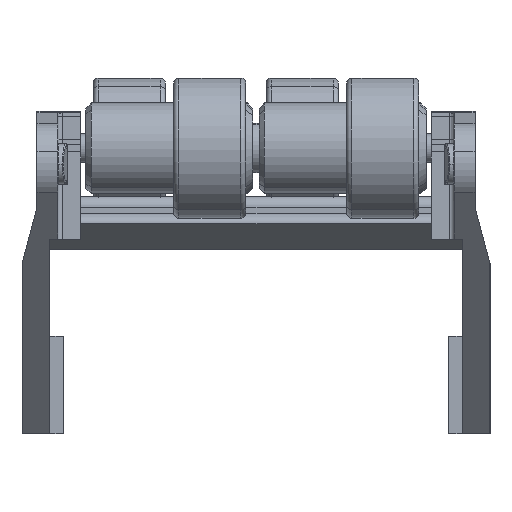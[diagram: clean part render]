
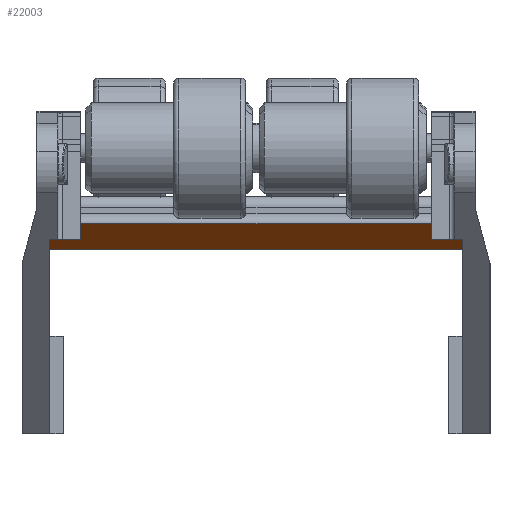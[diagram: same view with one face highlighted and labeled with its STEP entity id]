
A CAD part, left-side view. The second image highlights one B-rep face of the part: STEP entity #22003.
In plain terms, the highlighted planar face has unit normal (-0.643, 0, -0.766).
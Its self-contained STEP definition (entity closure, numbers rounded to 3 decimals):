
#12373=EDGE_CURVE('',#34947,#34948,#34949,.T.);
#15837=EDGE_CURVE('',#40850,#34947,#40851,.T.);
#17025=EDGE_CURVE('',#42713,#40850,#42714,.T.);
#20429=EDGE_CURVE('',#47729,#34948,#47730,.T.);
#22003=ADVANCED_FACE('',(#49870),#49871,.F.);
#24055=EDGE_CURVE('',#52585,#47729,#52586,.T.);
#29309=EDGE_CURVE('',#57968,#52585,#59065,.T.);
#31755=EDGE_CURVE('',#43181,#42713,#61981,.T.);
#33329=EDGE_CURVE('',#43181,#57968,#63801,.T.);
#34947=VERTEX_POINT('',#66082);
#34948=VERTEX_POINT('',#66083);
#34949=LINE('',#66084,#66085);
#40850=VERTEX_POINT('',#74681);
#40851=LINE('',#74682,#74683);
#42713=VERTEX_POINT('',#77547);
#42714=LINE('',#77548,#77549);
#43181=VERTEX_POINT('',#78164);
#47729=VERTEX_POINT('',#85120);
#47730=LINE('',#85121,#85122);
#49870=FACE_OUTER_BOUND('',#88592,.T.);
#49871=PLANE('',#88593);
#52585=VERTEX_POINT('',#92899);
#52586=LINE('',#92900,#92901);
#57968=VERTEX_POINT('',#101698);
#59065=LINE('',#103599,#103600);
#61981=LINE('',#108269,#108270);
#63801=LINE('',#111317,#111318);
#66082=CARTESIAN_POINT('',(-241.702,-20.0,-1.979));
#66083=CARTESIAN_POINT('',(-240.511,-20.0,-2.979));
#66084=CARTESIAN_POINT('',(-228.993,-20.0,-12.644));
#66085=VECTOR('',#112827,1.0);
#74681=CARTESIAN_POINT('',(-241.702,-17.0,-1.979));
#74682=CARTESIAN_POINT('',(-241.702,-14.464,-1.979));
#74683=VECTOR('',#119578,1.0);
#77547=CARTESIAN_POINT('',(-243.49,-17.0,-0.479));
#77548=CARTESIAN_POINT('',(-251.542,-17.0,6.277));
#77549=VECTOR('',#121927,1.0);
#78164=CARTESIAN_POINT('',(-243.49,17.0,-0.479));
#85120=CARTESIAN_POINT('',(-240.511,20.0,-2.979));
#85121=CARTESIAN_POINT('',(-240.511,14.,-2.979));
#85122=VECTOR('',#128986,1.0);
#88592=EDGE_LOOP('',(#132071,#132072,#132073,#132074,#132075,#132076,#132077,#132078));
#88593=AXIS2_PLACEMENT_3D('',#132079,#132080,#132081);
#92899=CARTESIAN_POINT('',(-241.702,20.0,-1.979));
#92900=CARTESIAN_POINT('',(-228.993,20.0,-12.644));
#92901=VECTOR('',#136261,1.0);
#101698=CARTESIAN_POINT('',(-241.702,17.0,-1.979));
#103599=CARTESIAN_POINT('',(-241.702,14.464,-1.979));
#103600=VECTOR('',#146992,1.0);
#108269=CARTESIAN_POINT('',(-243.49,-4.,-0.479));
#108270=VECTOR('',#151951,1.0);
#111317=CARTESIAN_POINT('',(-251.542,17.0,6.277));
#111318=VECTOR('',#155150,1.0);
#112827=DIRECTION('',(0.766,0.0,-0.643));
#119578=DIRECTION('',(0.0,-1.0,0.0));
#121927=DIRECTION('',(0.766,0.,-0.643));
#128986=DIRECTION('',(0.,-1.0,0.0));
#132071=ORIENTED_EDGE('',*,*,#31755,.F.);
#132072=ORIENTED_EDGE('',*,*,#33329,.T.);
#132073=ORIENTED_EDGE('',*,*,#29309,.T.);
#132074=ORIENTED_EDGE('',*,*,#24055,.T.);
#132075=ORIENTED_EDGE('',*,*,#20429,.T.);
#132076=ORIENTED_EDGE('',*,*,#12373,.F.);
#132077=ORIENTED_EDGE('',*,*,#15837,.F.);
#132078=ORIENTED_EDGE('',*,*,#17025,.F.);
#132079=CARTESIAN_POINT('',(-183.902,-8.,-50.479));
#132080=DIRECTION('',(0.643,0.,0.766));
#132081=DIRECTION('',(-0.766,0.,0.643));
#136261=DIRECTION('',(0.766,0.0,-0.643));
#146992=DIRECTION('',(0.0,1.0,0.0));
#151951=DIRECTION('',(0.,-1.0,0.0));
#155150=DIRECTION('',(0.766,0.,-0.643));
